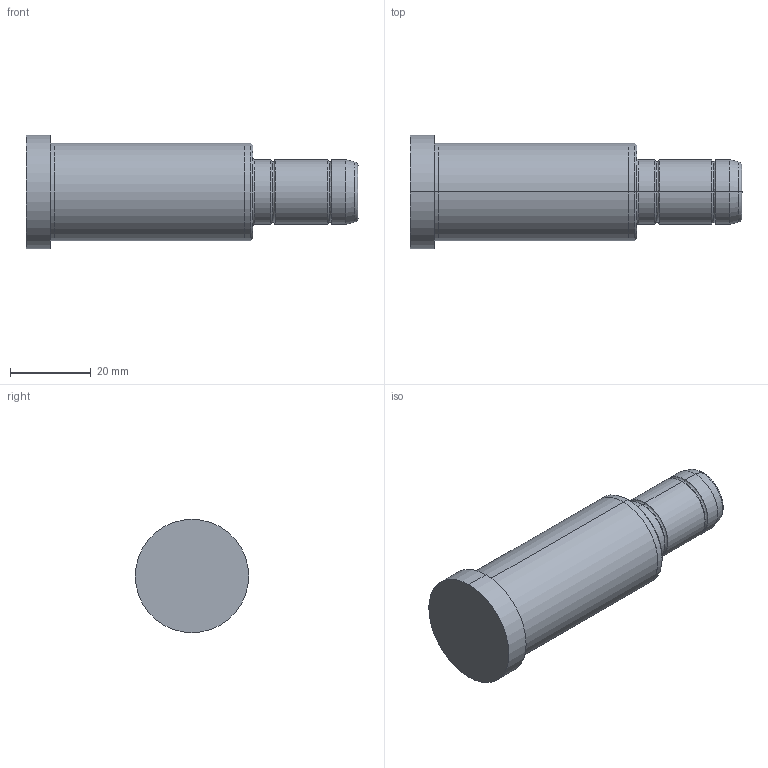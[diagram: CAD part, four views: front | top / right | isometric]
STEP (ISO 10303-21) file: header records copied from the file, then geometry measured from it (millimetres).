
FILE_DESCRIPTION( ( 'STEP AP203' ), '1' );
FILE_NAME( 'D:/Delta 3 D/D02/16/D02 - 16x56x26.step', '2003-01-04T13:11:13', ( ' ' ), ( ' ' ), 'XStep 1.0', ' ', ' ' );
FILE_SCHEMA( ( 'CONFIG_CONTROL_DESIGN' ) );
Length unit declared in the file: metre
Products named in the file (1): 1
Bounding box: 82 x 28 x 28 mm (x, y, z)
Volume: 31468.5 mm3; surface area: 6807.2 mm2
Topology: 1 solids, 1 shells, 36 faces, 70 edges, 40 vertices
Faces by surface type: bspline 18, revolution 18
Entity records: 1127 total; most frequent: CARTESIAN_POINT 417, ORIENTED_EDGE 140, DIRECTION 118, EDGE_CURVE 70, AXIS2_PLACEMENT_3D 41, EDGE_LOOP 40, VERTEX_POINT 40, CIRCLE 40
